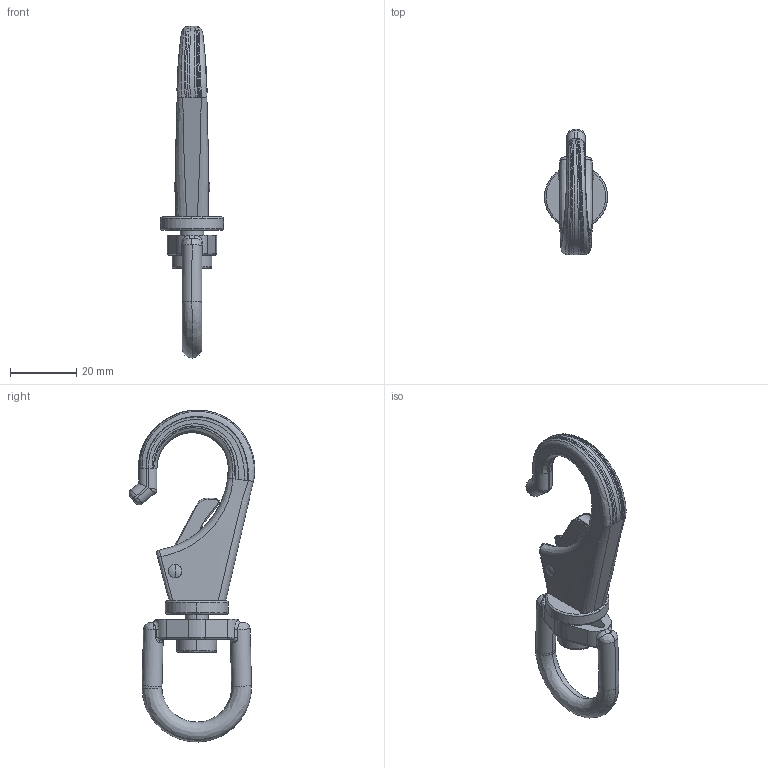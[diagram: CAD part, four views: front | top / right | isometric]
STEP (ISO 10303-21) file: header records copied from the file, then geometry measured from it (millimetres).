
FILE_DESCRIPTION (( 'STEP AP203' ), '1' );
FILE_NAME ('EB-928S-3.STEP', '2013-07-31T06:07:15', ( 'SDS' ), ( 'SDS' ), 'SwSTEP 2.0', 'SolidWorks 2002296', '' );
FILE_SCHEMA (( 'CONFIG_CONTROL_DESIGN' ));
Length unit declared in the file: millimetre
Products named in the file (4): EB-928S-3; EB-928S-32_蹬怮椔; EB-928S-33_蹬怮椔; EB-928S-31_蹬怮椔
Assembly tree (3 placements, depth 2):
  EB-928S-3
    EB-928S-33_蹬怮椔
    EB-928S-32_蹬怮椔
    EB-928S-31_蹬怮椔
Bounding box: 19 x 37.89 x 100.04 mm (x, y, z)
Volume: 11906.4 mm3; surface area: 7892.1 mm2
Topology: 3 solids, 3 shells, 263 faces, 692 edges, 436 vertices
Faces by surface type: bspline 122, cylinder 91, plane 50
Entity records: 18952 total; most frequent: CARTESIAN_POINT 13262, ORIENTED_EDGE 1376, DIRECTION 715, EDGE_CURVE 688, VERTEX_POINT 436, B_SPLINE_CURVE_WITH_KNOTS 323, EDGE_LOOP 276, AXIS2_PLACEMENT_3D 270
